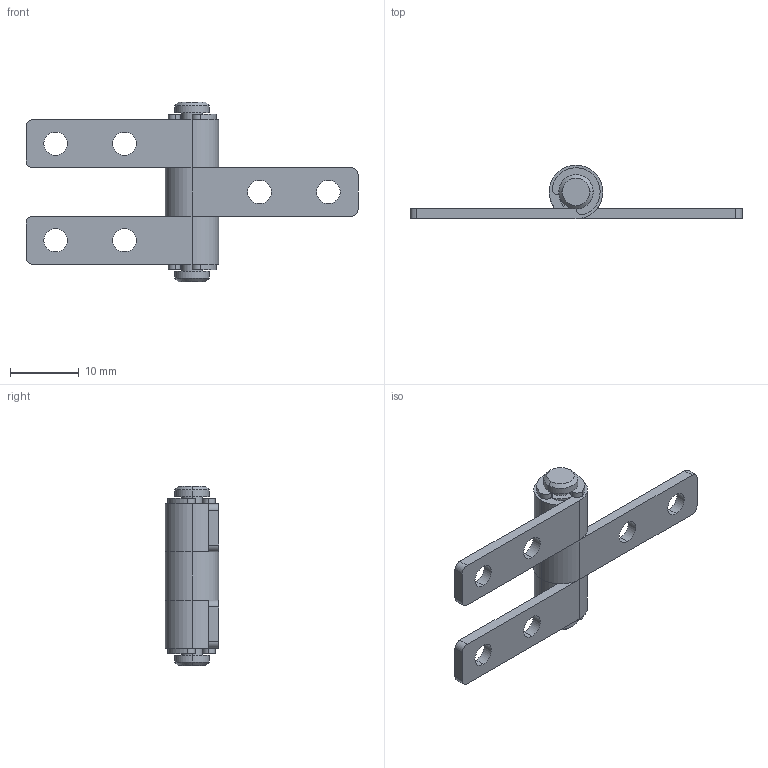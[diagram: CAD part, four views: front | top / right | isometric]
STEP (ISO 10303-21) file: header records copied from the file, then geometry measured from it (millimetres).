
FILE_DESCRIPTION (( 'STEP AP203' ), '1' );
FILE_NAME ('XG11-145-3.STEP', '2025-09-04T08:09:10', ( '微软用户' ), ( '微软中国' ), 'SwSTEP 2.0', 'SolidWorks 2024', '' );
FILE_SCHEMA (( 'CONFIG_CONTROL_DESIGN' ));
Length unit declared in the file: millimetre
Products named in the file (3): XG11-145-3; XG11-145-3-PART1; XG11-145-3-PART2
Assembly tree (4 placements, depth 2):
  XG11-145-3
    XG11-145-3-PART1  x3
    XG11-145-3-PART2
Bounding box: 48.2 x 7.8 x 26 mm (x, y, z)
Volume: 1682.2 mm3; surface area: 2728 mm2
Topology: 5 solids, 5 shells, 91 faces, 225 edges, 148 vertices
Faces by surface type: cylinder 56, plane 28, cone 4, bspline 3
Entity records: 2058 total; most frequent: DIRECTION 339, CARTESIAN_POINT 296, ORIENTED_EDGE 270, AXIS2_PLACEMENT_3D 143, EDGE_CURVE 135, VERTEX_POINT 88, CIRCLE 80, EDGE_LOOP 65
